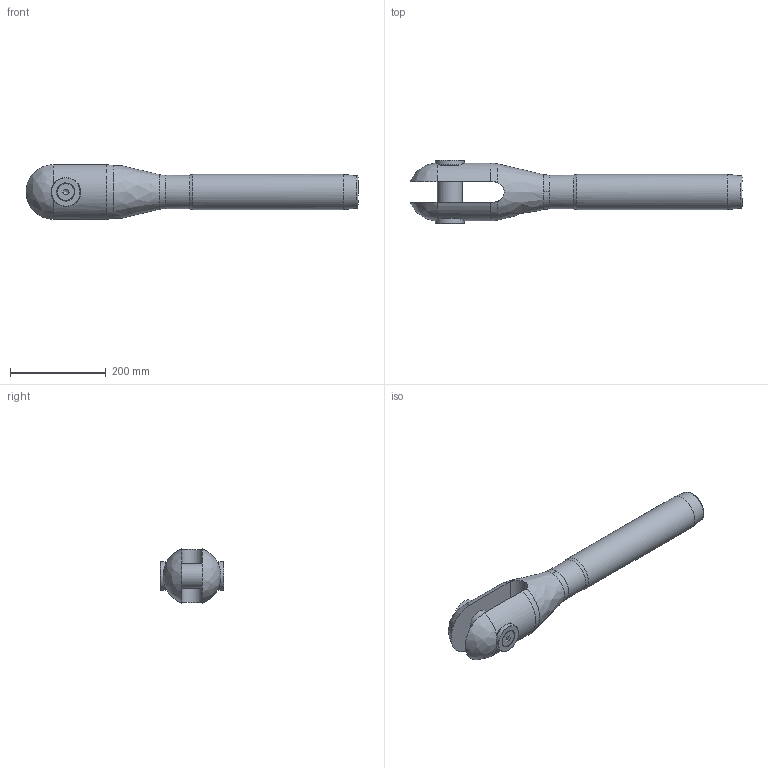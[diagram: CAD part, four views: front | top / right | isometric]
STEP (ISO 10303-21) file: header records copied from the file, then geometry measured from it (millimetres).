
FILE_DESCRIPTION(/* description */ (''),/* implementation_level */ '2;1');
FILE_NAME(/* name */ 'MAC 38_42CrMo4',/* time_stamp */ '2023-05-23T16:55:24+02:00',/* author */ (''),/* organization */ (''),/* preprocessor_version */ 'ST-DEVELOPER v16.5',/* originating_system */ 'Rhino 7.22',/* authorisation */ '');
FILE_SCHEMA (('CONFIG_CONTROL_DESIGN'));
Length unit declared in the file: millimetre
Products named in the file (1): Document
Bounding box: 693.73 x 131.78 x 113.48 mm (x, y, z)
Volume: 3544612.6 mm3; surface area: 275304.7 mm2
Topology: 6 solids, 6 shells, 75 faces, 209 edges, 144 vertices
Faces by surface type: plane 29, bspline 24, cylinder 22
Full cylindrical faces by diameter (mm): 17.294 x2, 20 x2, 21 x2, 35.4 x2, 52 x1, 53 x2, 60 x2, 70 x1, 73.5 x1
Entity records: 3166 total; most frequent: CARTESIAN_POINT 1823, ORIENTED_EDGE 410, EDGE_CURVE 205, VERTEX_POINT 144, EDGE_LOOP 85, B_SPLINE_CURVE_WITH_KNOTS 84, ADVANCED_FACE 75, FACE_OUTER_BOUND 75
